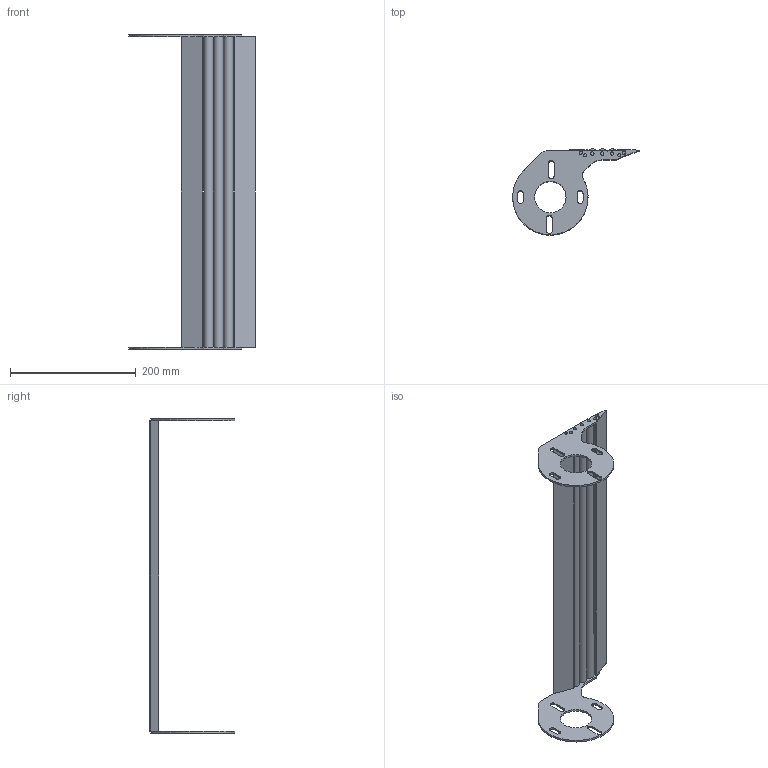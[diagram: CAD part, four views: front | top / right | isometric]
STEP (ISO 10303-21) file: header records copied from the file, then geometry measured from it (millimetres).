
FILE_DESCRIPTION (( 'STEP AP214' ), '1' );
FILE_NAME ('F2 1800 TG2R.step', '2017-04-05T07:32:10', ( '' ), ( '' ), 'SwSTEP 2.0', 'SolidWorks 2015', '' );
FILE_SCHEMA (( 'AUTOMOTIVE_DESIGN' ));
Length unit declared in the file: millimetre
Products named in the file (1): F2 1800 TG2R
Bounding box: 201.6 x 136.54 x 500 mm (x, y, z)
Volume: 599997.2 mm3; surface area: 204793.9 mm2
Topology: 1 solids, 1 shells, 157 faces, 427 edges, 278 vertices
Faces by surface type: plane 84, cylinder 73
Entity records: 6598 total; most frequent: DIRECTION 901, CARTESIAN_POINT 863, ORIENTED_EDGE 854, EDGE_CURVE 427, AXIS2_PLACEMENT_3D 316, VERTEX_POINT 278, LINE 269, VECTOR 269
